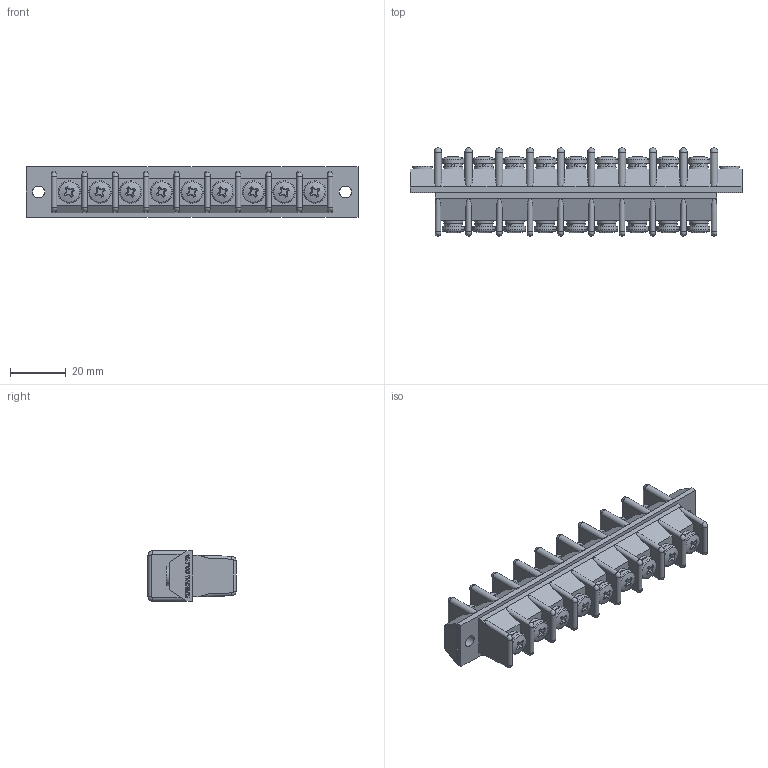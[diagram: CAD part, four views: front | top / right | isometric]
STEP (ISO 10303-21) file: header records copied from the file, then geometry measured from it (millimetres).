
FILE_DESCRIPTION(/* description */ ('Alibre Inc.'),/* implementation_level */ '2;1');
FILE_NAME(/* name */ 'export0',/* time_stamp */ '2016-01-16T17:47:04+09:00',/* author */ (''),/* organization */ (''),/* preprocessor_version */ 'ST-DEVELOPER v14',/* originating_system */ 'Alibre',/* authorisation */ '');
FILE_SCHEMA (('CONFIG_CONTROL_DESIGN'));
Length unit declared in the file: centimetre
Products named in the file (1): ID_1
Bounding box: 119 x 31.57 x 18 mm (x, y, z)
Volume: 35486.7 mm3; surface area: 16936.6 mm2
Topology: 1 solids, 10 shells, 1114 faces, 2872 edges, 1893 vertices
Faces by surface type: plane 699, cylinder 127, cone 108, bspline 104, torus 58, sphere 18
Full cylindrical faces by diameter (mm): 4 x9, 4.3 x2, 6.5 x18, 7 x2, 8 x18
Entity records: 33084 total; most frequent: CARTESIAN_POINT 7244, ORIENTED_EDGE 5552, DIRECTION 4598, EDGE_CURVE 2776, AXIS2_PLACEMENT_3D 1912, VERTEX_POINT 1882, VECTOR 1482, LINE 1482
